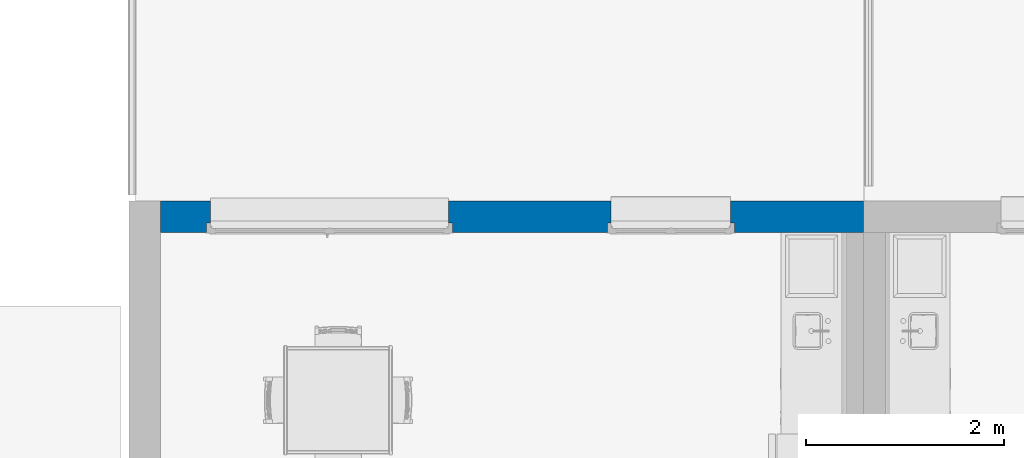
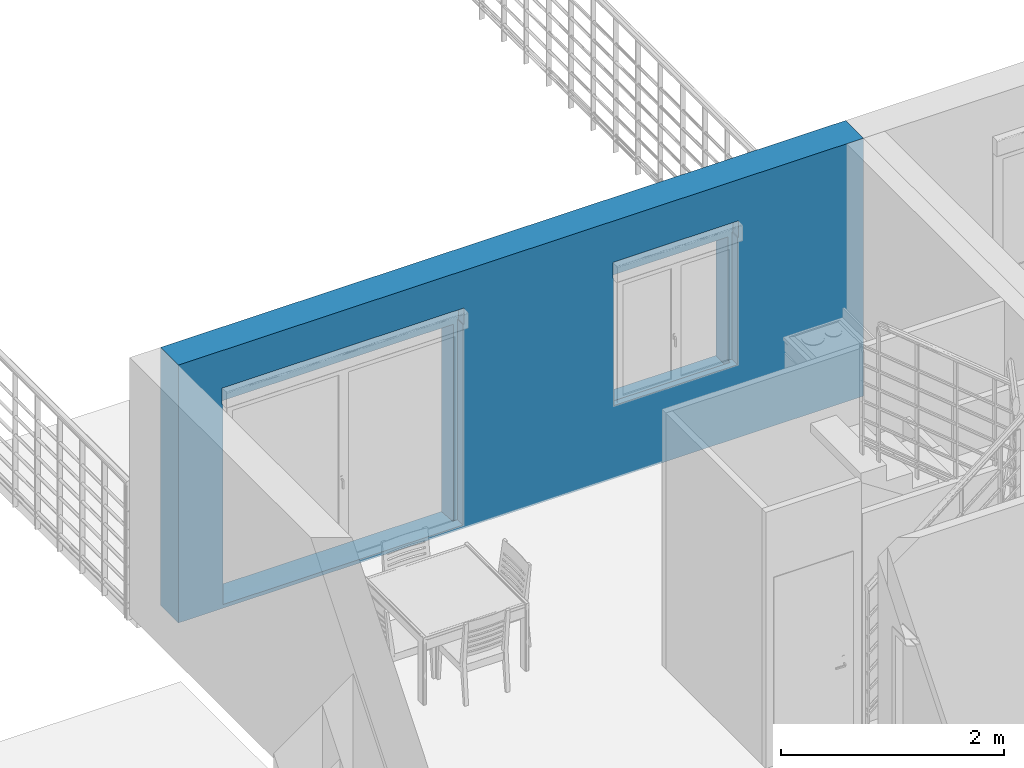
# One storey, part 23 of 33: 1 wall, 2 openings.
"""IFC2X3 building model written with IfcOpenShell, lengths in metres."""

from ifc_helpers import new_model, entity, si_unit, converted_unit, derived_unit, direction, frame, frame_2d, origin, place, context, subcontext, project, spatial, rectangle, extrude, faceted_brep, material, layer, layer_set, layer_usage, type_object, element, save


model = new_model("IFC2X3")

# Units and contexts
model_context = context("Model", 3, precision=1e-05, world=origin(), true_north=direction((6.12303176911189e-17, 1.0)))
context_of_model = context(None, 3, precision=1e-05, world=origin(), true_north=direction((6.12303176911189e-17, 1.0)))
body_context = subcontext(model_context, "Body", "Model", "MODEL_VIEW")
ifc_project = project(units=[si_unit("LENGTHUNIT", "METRE"), si_unit("AREAUNIT", "SQUARE_METRE"), si_unit("VOLUMEUNIT", "CUBIC_METRE"), converted_unit("PLANEANGLEUNIT", "DEGREE", entity("IfcRatioMeasure", 0.0174532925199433), si_unit("PLANEANGLEUNIT", "RADIAN"), dimensions=[0, 0, 0, 0, 0, 0, 0]), si_unit("MASSUNIT", "GRAM", prefix="KILO"), si_unit("TIMEUNIT", "SECOND"), si_unit("FREQUENCYUNIT", "HERTZ"), si_unit("THERMODYNAMICTEMPERATUREUNIT", "DEGREE_CELSIUS"), derived_unit("THERMALTRANSMITTANCEUNIT", [(si_unit("MASSUNIT", "GRAM", prefix="KILO"), 1), (si_unit("THERMODYNAMICTEMPERATUREUNIT", "KELVIN"), -1), (si_unit("TIMEUNIT", "SECOND"), -3)]), derived_unit("VOLUMETRICFLOWRATEUNIT", [(si_unit("LENGTHUNIT", "METRE"), 3), (si_unit("TIMEUNIT", "SECOND"), -1)]), si_unit("ELECTRICCURRENTUNIT", "AMPERE"), si_unit("ELECTRICVOLTAGEUNIT", "VOLT"), si_unit("POWERUNIT", "WATT"), si_unit("FORCEUNIT", "NEWTON", prefix="KILO"), si_unit("ILLUMINANCEUNIT", "LUX"), si_unit("LUMINOUSFLUXUNIT", "LUMEN"), si_unit("LUMINOUSINTENSITYUNIT", "CANDELA"), si_unit("PRESSUREUNIT", "PASCAL")], contexts=[model_context, context_of_model])

# Site, building, storey
site_placement = place(None, origin())
site = spatial("IfcSite", under=ifc_project, at=site_placement, Name="Surface", CompositionType="ELEMENT")
building_placement = place(site_placement, origin())
building = spatial("IfcBuilding", under=site, at=building_placement, CompositionType="ELEMENT")
storey_placement = place(building_placement, origin())
storey = spatial("IfcBuildingStorey", under=building, at=storey_placement, Name="Plan des fondations  Maisons 1 et 2", CompositionType="ELEMENT", Elevation=0.0)

# Wall, openings
ifc_material_1 = material(Name="Enduit blanc cassé2")
ifc_layer_1 = layer(ifc_material_1, 0.02)
ifc_material_2 = material(Name="Parpaing")
ifc_layer_2 = layer(ifc_material_2, 0.2)
ifc_material_3 = material(Name="Isolant")
ifc_layer_3 = layer(ifc_material_3, 0.1)
ifc_layer_set = layer_set([ifc_layer_1, ifc_layer_2, ifc_layer_3], Name="Mur de base:Ext. Parpaing 20 + Isolant 10 enduit blanc cassé")
ifc_layer_usage = layer_usage(ifc_layer_set, "AXIS2", "NEGATIVE", 0.16)
wall_type = type_object("IfcWallType", Name="Mur de base:Ext. Parpaing 20 + Isolant 10 enduit blanc cassé", PredefinedType="STANDARD", material=ifc_layer_set)
wall_placement = place(storey_placement, frame((76.622756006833, 92.3075239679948, 0.0)))
wall = element("IfcWallStandardCase", 1, at=wall_placement, inside=storey, type_object=wall_type, material=ifc_layer_usage, Name="Mur de base:Ext. Parpaing 20 + Isolant 10 enduit blanc cassé", ObjectType="Mur de base:Ext. Parpaing 20 + Isolant 10 enduit blanc cassé", context=body_context, shape_type="SweptSolid", body=[
    extrude(rectangle(XDim=7.08402976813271, YDim=0.319999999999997, at=frame_2d((3.54201488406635, 0.0), x_axis=(-1.0, 0.0))), origin(), (0.0, 0.0, 1.0), 2.82),
])
opening_1_placement = place(wall_placement, frame((4.49220465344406, -0.500000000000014, 0.719999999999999)))
element("IfcOpeningElement", 2, at=opening_1_placement, cuts=wall, Name="Mur de base:Ext. Parpaing 20 + Isolant 10 enduit blanc cassé", ObjectType="Opening", context=body_context, shape_type="Brep", body=[
    faceted_brep([(0.0499999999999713, 0.0, 1.43), (0.0499999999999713, 0.0, 0.0799999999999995), (1.24999999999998, 0.0, 0.0799999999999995), (1.24999999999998, 0.0, 1.43), (0.0499999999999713, 1.0, 1.43), (1.24999999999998, 1.0, 1.43), (1.24999999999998, 1.0, 0.0799999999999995), (0.0499999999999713, 1.0, 0.0799999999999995), (1.24999999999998, 0.326999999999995, 1.43), (0.0499999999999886, 0.327000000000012, 1.43), (1.24999999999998, 0.326999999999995, 0.0799999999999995), (0.0499999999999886, 0.327000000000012, 0.0799999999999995), (0.0099999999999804, 0.326999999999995, 0.0799999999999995), (0.0099999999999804, 0.440000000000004, 0.0799999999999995), (0.0499999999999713, 0.440000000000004, 0.0799999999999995), (0.0499999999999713, 0.405000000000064, 0.0799999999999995), (1.24999999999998, 0.405000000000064, 0.0799999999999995), (1.24999999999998, 0.440000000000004, 0.0799999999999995), (1.28999999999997, 0.440000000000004, 0.0799999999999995), (1.28999999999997, 0.326999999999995, 0.0799999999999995), (1.28999999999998, 0.327000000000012, 1.47), (0.0099999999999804, 0.327000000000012, 1.47), (1.28999999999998, 0.440000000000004, 1.47), (1.24999999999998, 0.440000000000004, 1.43), (0.0499999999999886, 0.440000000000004, 1.43), (0.0099999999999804, 0.440000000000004, 1.47), (0.0, 0.440000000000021, 1.47), (0.0, 0.440000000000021, 1.65), (1.29999999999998, 0.440000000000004, 1.65), (1.29999999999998, 0.440000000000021, 1.47), (1.29999999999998, 0.307000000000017, 1.65), (1.29999999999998, 0.307000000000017, 1.47), (0.0, 0.307000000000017, 1.65), (0.0, 0.307000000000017, 1.47), (1.24999999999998, 0.440000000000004, 0.0), (1.24999999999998, 0.405000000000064, 0.034999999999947), (0.0499999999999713, 0.405000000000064, 0.0349999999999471), (0.0499999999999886, 0.440000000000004, 0.0), (1.24999999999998, 0.705000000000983, 0.0799999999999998), (1.24999999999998, 0.705000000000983, 0.0), (0.0499999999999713, 0.705000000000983, 0.0), (0.0499999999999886, 0.705000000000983, 0.0799999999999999)], [[[0, 1, 2, 3]], [[4, 5, 6, 7]], [[0, 3, 8, 9]], [[3, 2, 10, 8]], [[2, 1, 11, 12, 13, 14, 15, 16, 17, 18, 19, 10]], [[1, 0, 9, 11]], [[10, 19, 20, 21, 12, 11, 9, 8]], [[19, 18, 22, 20]], [[18, 17, 23, 24, 14, 13, 25, 26, 27, 28, 29, 22]], [[12, 21, 25, 13]], [[30, 31, 29, 28]], [[32, 27, 26, 33]], [[30, 28, 27, 32]], [[29, 31, 33, 26, 25, 21, 20, 22]], [[31, 30, 32, 33]], [[34, 35, 36, 37]], [[35, 16, 15, 36]], [[38, 39, 40, 41]], [[39, 34, 37, 40]], [[4, 7, 41, 40, 37, 36, 15, 14, 24]], [[7, 6, 38, 41]], [[6, 5, 23, 17, 16, 35, 34, 39, 38]], [[5, 4, 24, 23]]]),
])
opening_2_placement = place(wall_placement, frame((0.453073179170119, -0.500000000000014, 0.006120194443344)))
element("IfcOpeningElement", 3, at=opening_2_placement, cuts=wall, Name="Mur de base:Ext. Parpaing 20 + Isolant 10 enduit blanc cassé", ObjectType="Opening", context=body_context, shape_type="Brep", body=[
    faceted_brep([(0.0499999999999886, 0.0, 2.18387980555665), (0.0499999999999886, 0.0, 0.0338798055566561), (2.44999999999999, 0.0, 0.0338798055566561), (2.44999999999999, 0.0, 2.18387980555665), (0.0499999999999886, 1.0, 2.18387980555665), (2.44999999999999, 1.0, 2.18387980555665), (2.44999999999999, 1.0, 0.0338798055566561), (0.0499999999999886, 1.0, 0.0338798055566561), (2.44999999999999, 0.326999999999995, 2.18387980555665), (0.0499999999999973, 0.327000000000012, 2.18387980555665), (2.44999999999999, 0.326999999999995, 0.0338798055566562), (0.0499999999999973, 0.327000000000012, 0.0338798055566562), (0.00999999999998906, 0.326999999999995, 0.0338798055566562), (0.00999999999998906, 0.440000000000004, 0.0338798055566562), (0.0499999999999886, 0.440000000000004, 0.0338798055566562), (0.0499999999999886, 0.437999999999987, 0.0338798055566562), (2.44999999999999, 0.437999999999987, 0.0338798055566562), (2.44999999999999, 0.440000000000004, 0.0338798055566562), (2.48999999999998, 0.440000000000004, 0.0338798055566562), (2.48999999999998, 0.326999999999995, 0.0338798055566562), (2.49, 0.327000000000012, 2.22387980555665), (0.00999999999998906, 0.327000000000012, 2.22387980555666), (2.49, 0.440000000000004, 2.22387980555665), (2.44999999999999, 0.440000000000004, 2.18387980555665), (0.0499999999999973, 0.440000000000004, 2.18387980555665), (0.00999999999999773, 0.440000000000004, 2.22387980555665), (0.0, 0.440000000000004, 2.22387980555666), (0.0, 0.440000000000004, 2.40387980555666), (2.49999999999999, 0.440000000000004, 2.40387980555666), (2.49999999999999, 0.440000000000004, 2.22387980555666), (2.49999999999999, 0.307, 2.40387980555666), (2.49999999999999, 0.307, 2.22387980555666), (0.0, 0.307, 2.40387980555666), (0.0, 0.307, 2.22387980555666), (2.44999999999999, 0.437999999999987, 0.0220471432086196), (0.0499999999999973, 0.437999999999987, 0.0220471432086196), (2.44999999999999, 0.690000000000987, 0.0338798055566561), (2.44999999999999, 0.690000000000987, 0.0), (0.0499999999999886, 0.690000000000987, 0.0), (0.0499999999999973, 0.690000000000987, 0.0338798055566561)], [[[0, 1, 2, 3]], [[4, 5, 6, 7]], [[0, 3, 8, 9]], [[3, 2, 10, 8]], [[2, 1, 11, 12, 13, 14, 15, 16, 17, 18, 19, 10]], [[1, 0, 9, 11]], [[10, 19, 20, 21, 12, 11, 9, 8]], [[19, 18, 22, 20]], [[18, 17, 23, 24, 14, 13, 25, 26, 27, 28, 29, 22]], [[12, 21, 25, 13]], [[30, 31, 29, 28]], [[32, 27, 26, 33]], [[30, 28, 27, 32]], [[29, 31, 33, 26, 25, 21, 20, 22]], [[31, 30, 32, 33]], [[34, 16, 15, 35]], [[36, 37, 38, 39]], [[37, 34, 35, 38]], [[4, 7, 39, 38, 35, 15, 14, 24]], [[7, 6, 36, 39]], [[6, 5, 23, 17, 16, 34, 37, 36]], [[5, 4, 24, 23]]]),
])

save(model, "model.ifc")
